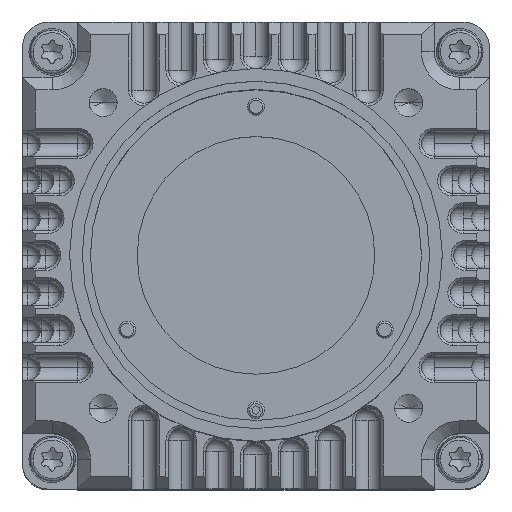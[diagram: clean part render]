
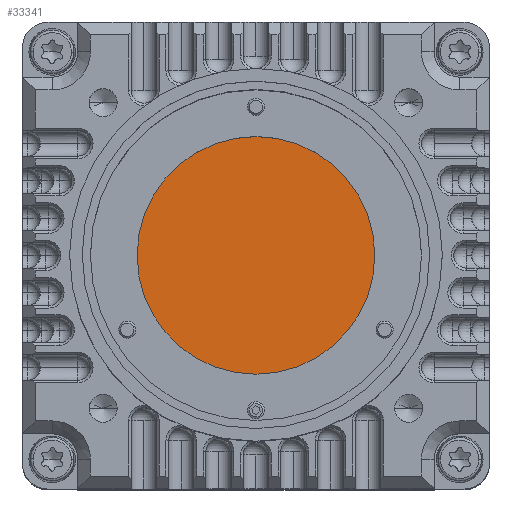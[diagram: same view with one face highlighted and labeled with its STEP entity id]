
A CAD part, top view. The second image highlights one B-rep face of the part: STEP entity #33341.
In plain terms, the highlighted planar face has unit normal (0, 0, 1).
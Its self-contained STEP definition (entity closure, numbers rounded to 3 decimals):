
#2054 = DIRECTION ( 'NONE',  ( 1., 0., 0. ) ) ;
#8115 = CARTESIAN_POINT ( 'NONE',  ( 15., 0., 17.4 ) ) ;
#14791 = FACE_OUTER_BOUND ( 'NONE', #94477, .T. ) ;
#20287 = DIRECTION ( 'NONE',  ( 1., 0., 0. ) ) ;
#31329 = DIRECTION ( 'NONE',  ( 0., 0., 1. ) ) ;
#32598 = DIRECTION ( 'NONE',  ( 0., 0., 1. ) ) ;
#33341 = ADVANCED_FACE ( 'NONE', ( #14791 ), #130757, .T. ) ;
#56086 = AXIS2_PLACEMENT_3D ( 'NONE', #60295, #31329, #59397 ) ;
#56578 = AXIS2_PLACEMENT_3D ( 'NONE', #113243, #114185, #2054 ) ;
#59397 = DIRECTION ( 'NONE',  ( 1., 0., 0. ) ) ;
#59600 = ORIENTED_EDGE ( 'NONE', *, *, #70500, .T. ) ;
#60295 = CARTESIAN_POINT ( 'NONE',  ( 0., 0., 17.4 ) ) ;
#70500 = EDGE_CURVE ( 'NONE', #159196, #82880, #73928, .T. ) ;
#73928 = CIRCLE ( 'NONE', #56086, 15. ) ;
#82880 = VERTEX_POINT ( 'NONE', #144834 ) ;
#88509 = EDGE_CURVE ( 'NONE', #82880, #159196, #154895, .T. ) ;
#94477 = EDGE_LOOP ( 'NONE', ( #158872, #59600 ) ) ;
#107195 = AXIS2_PLACEMENT_3D ( 'NONE', #161350, #32598, #20287 ) ;
#113243 = CARTESIAN_POINT ( 'NONE',  ( 0., 0., 17.4 ) ) ;
#114185 = DIRECTION ( 'NONE',  ( 0., 0., 1. ) ) ;
#130757 = PLANE ( 'NONE',  #107195 ) ;
#144834 = CARTESIAN_POINT ( 'NONE',  ( -15., 0., 17.4 ) ) ;
#154895 = CIRCLE ( 'NONE', #56578, 15. ) ;
#158872 = ORIENTED_EDGE ( 'NONE', *, *, #88509, .T. ) ;
#159196 = VERTEX_POINT ( 'NONE', #8115 ) ;
#161350 = CARTESIAN_POINT ( 'NONE',  ( 0., 0., 17.4 ) ) ;
